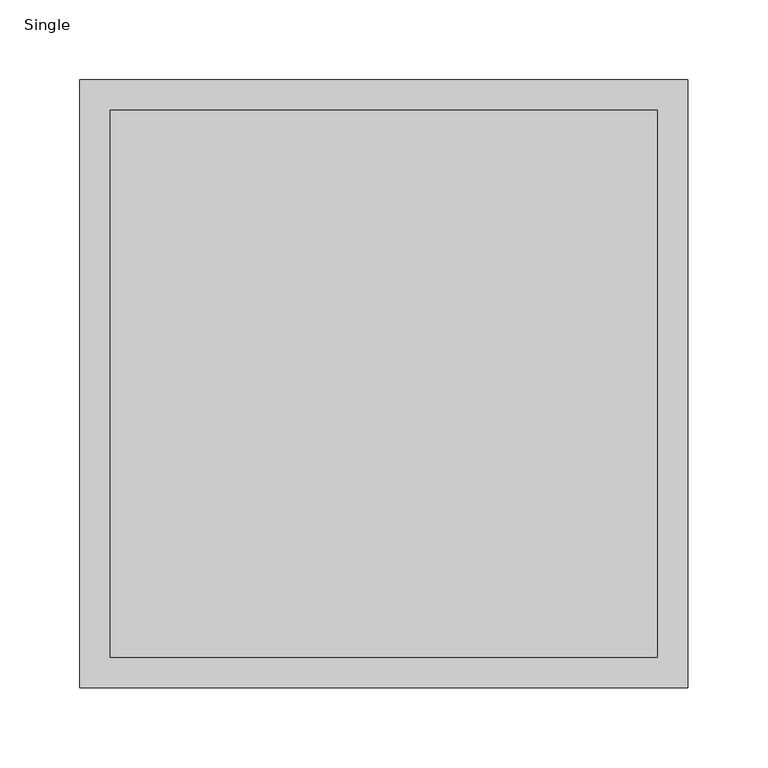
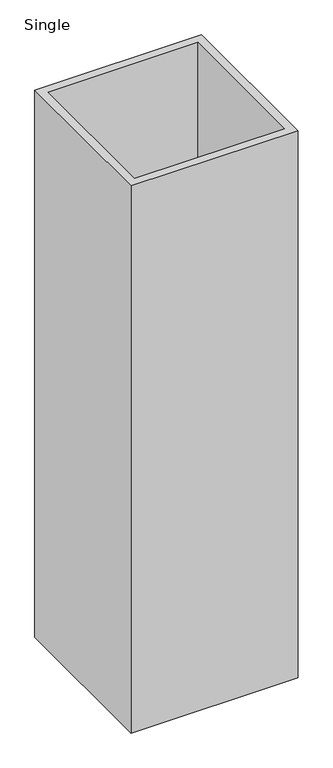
"""IFC4 building model written with IfcOpenShell, lengths in millimetres: furniture geometry, Stylex - Ambi - Planter : Single."""

from ifc_helpers import new_model, si_unit, origin, place, context, project, spatial, faceted_brep, source, transform, mapped, element, save


def single_72c28b5a(model_context):
    return source(origin(), model_context, "Body", "Brep", [
        faceted_brep([(190.5, 190.5, 1320.8), (-190.5, 190.5, 1320.8), (-190.5, -190.5, 1320.8), (190.5, -190.5, 1320.8), (171.45, -171.45, 1320.8), (-171.45, -171.45, 1320.8), (-171.45, 171.45, 1320.8), (171.45, 171.45, 1320.8), (190.5, 190.5, 0.0), (190.5, -190.5, 0.0), (-190.5, -190.5, 0.0), (-190.5, 190.5, 0.0), (171.45, -171.45, 1041.4), (171.45, 171.45, 1041.4), (-171.45, 171.45, 1041.4), (-171.45, -171.45, 1041.4)], [[[0, 1, 2, 3], [4, 5, 6, 7]], [[8, 9, 10, 11]], [[1, 0, 8, 11]], [[2, 1, 11, 10]], [[3, 2, 10, 9]], [[0, 3, 9, 8]], [[12, 13, 14, 15]], [[12, 15, 5, 4]], [[13, 12, 4, 7]], [[14, 13, 7, 6]], [[15, 14, 6, 5]]]),
    ])


if __name__ == "__main__":
    model = new_model("IFC4")
    model_context = context("Model", 3, world=origin())
    ifc_project = project(units=[si_unit("LENGTHUNIT", "METRE", prefix="MILLI")], contexts=[model_context])
    site = spatial("IfcSite", under=ifc_project)
    building = spatial("IfcBuilding", under=site)
    placement = place(None, origin())
    single_shape = single_72c28b5a(model_context)
    element("IfcFurniture", 1, ObjectType="Stylex - Ambi - Planter : Single", at=placement, inside=building, context=model_context, shape_type="MappedRepresentation", body=[
        mapped(single_shape, transform((0.0, 0.0, 0.0), x_axis=(1.0, 0.0, 0.0), y_axis=(0.0, 1.0, 0.0), z_axis=(0.0, 0.0, 1.0))),
    ])
    save(model, "model.ifc")
